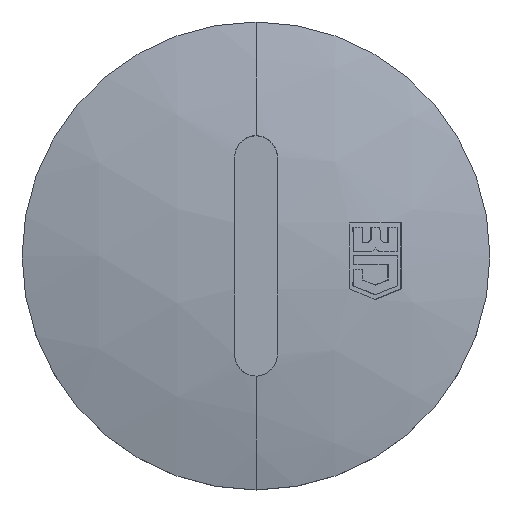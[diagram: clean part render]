
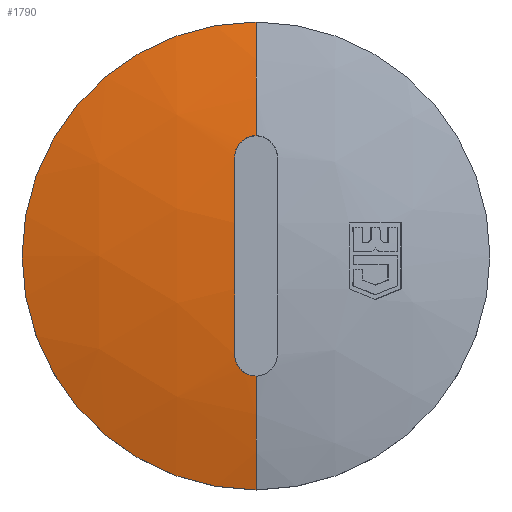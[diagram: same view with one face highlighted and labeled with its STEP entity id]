
A CAD part, top view. The second image highlights one B-rep face of the part: STEP entity #1790.
In plain terms, the highlighted spherical face has radius 41.083 mm.
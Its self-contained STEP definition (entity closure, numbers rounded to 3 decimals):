
#942 = CARTESIAN_POINT ( 'NONE',  ( -1., 0., -31.083 ) ) ;
#943 = AXIS2_PLACEMENT_3D ( 'NONE', #942, #1006, #1005 ) ;
#944 = CIRCLE ( 'NONE', #943, 41.071 ) ;
#965 = CIRCLE ( 'NONE', #989, 41.083 ) ;
#986 = DIRECTION ( 'NONE',  ( 0., 0., 1. ) ) ;
#987 = DIRECTION ( 'NONE',  ( -1., 0., 0. ) ) ;
#988 = CARTESIAN_POINT ( 'NONE',  ( 0., 0., -31.083 ) ) ;
#989 = AXIS2_PLACEMENT_3D ( 'NONE', #988, #987, #986 ) ;
#1004 = CARTESIAN_POINT ( 'NONE',  ( -1., 4.65, 9.724 ) ) ;
#1005 = DIRECTION ( 'NONE',  ( 0., 0., -1. ) ) ;
#1006 = DIRECTION ( 'NONE',  ( -1., 0., 0. ) ) ;
#1025 = CARTESIAN_POINT ( 'NONE',  ( 0., -5.65, 9.61 ) ) ;
#1173 = CARTESIAN_POINT ( 'NONE',  ( 0., 11., 8.5 ) ) ;
#1190 = CARTESIAN_POINT ( 'NONE',  ( 0., -11., 8.5 ) ) ;
#1335 = FACE_OUTER_BOUND ( 'NONE', #1521, .T. ) ;
#1342 = DIRECTION ( 'NONE',  ( 0., 1., 0. ) ) ;
#1343 = DIRECTION ( 'NONE',  ( 1., 0., 0. ) ) ;
#1344 = AXIS2_PLACEMENT_3D ( 'NONE', #1346, #1343, #1342 ) ;
#1345 = SPHERICAL_SURFACE ( 'NONE', #1344, 41.083 ) ;
#1346 = CARTESIAN_POINT ( 'NONE',  ( 0., 0., -31.083 ) ) ;
#1353 = CARTESIAN_POINT ( 'NONE',  ( -0.616, 5.449, 9.633 ) ) ;
#1354 = CARTESIAN_POINT ( 'NONE',  ( -0.8, 5.264, 9.654 ) ) ;
#1355 = CARTESIAN_POINT ( 'NONE',  ( -0.874, 5.153, 9.666 ) ) ;
#1356 = CARTESIAN_POINT ( 'NONE',  ( -0.974, 4.911, 9.694 ) ) ;
#1357 = CARTESIAN_POINT ( 'NONE',  ( -1., 4.782, 9.709 ) ) ;
#1358 = CARTESIAN_POINT ( 'NONE',  ( -1., 4.65, 9.724 ) ) ;
#1359 = AXIS2_PLACEMENT_3D ( 'NONE', #1362, #1389, #1388 ) ;
#1360 = CIRCLE ( 'NONE', #1359, 41.083 ) ;
#1362 = CARTESIAN_POINT ( 'NONE',  ( 0., 0., -31.083 ) ) ;
#1363 = B_SPLINE_CURVE_WITH_KNOTS ( 'NONE', 3,
 ( #1358, #1357, #1356, #1355, #1354, #1353, #1393, #1392, #1391, #1390 ),
 .UNSPECIFIED., .F., .F.,
 ( 4, 2, 2, 2, 4 ),
 ( 0., 0., 0.001, 0.001, 0.002 ),
 .UNSPECIFIED. ) ;
#1365 = CARTESIAN_POINT ( 'NONE',  ( -1., -4.65, 9.724 ) ) ;
#1366 = CARTESIAN_POINT ( 'NONE',  ( -1., -4.913, 9.694 ) ) ;
#1367 = CARTESIAN_POINT ( 'NONE',  ( -0.894, -5.169, 9.665 ) ) ;
#1368 = CARTESIAN_POINT ( 'NONE',  ( -0.615, -5.45, 9.633 ) ) ;
#1369 = CARTESIAN_POINT ( 'NONE',  ( -0.505, -5.523, 9.624 ) ) ;
#1370 = CARTESIAN_POINT ( 'NONE',  ( -0.262, -5.624, 9.613 ) ) ;
#1371 = B_SPLINE_CURVE_WITH_KNOTS ( 'NONE', 3,
 ( #1373, #1372, #1370, #1369, #1368, #1367, #1366, #1365 ),
 .UNSPECIFIED., .F., .F.,
 ( 4, 2, 2, 4 ),
 ( 0.002, 0.002, 0.002, 0.003 ),
 .UNSPECIFIED. ) ;
#1372 = CARTESIAN_POINT ( 'NONE',  ( -0.131, -5.65, 9.61 ) ) ;
#1373 = CARTESIAN_POINT ( 'NONE',  ( 0., -5.65, 9.61 ) ) ;
#1382 = CARTESIAN_POINT ( 'NONE',  ( -1., -4.65, 9.724 ) ) ;
#1388 = DIRECTION ( 'NONE',  ( 0., 1., 0. ) ) ;
#1389 = DIRECTION ( 'NONE',  ( 1., 0., 0. ) ) ;
#1390 = CARTESIAN_POINT ( 'NONE',  ( 0., 5.65, 9.61 ) ) ;
#1391 = CARTESIAN_POINT ( 'NONE',  ( -0.131, 5.65, 9.61 ) ) ;
#1392 = CARTESIAN_POINT ( 'NONE',  ( -0.263, 5.624, 9.613 ) ) ;
#1393 = CARTESIAN_POINT ( 'NONE',  ( -0.504, 5.523, 9.624 ) ) ;
#1397 = AXIS2_PLACEMENT_3D ( 'NONE', #1444, #1443, #1495 ) ;
#1443 = DIRECTION ( 'NONE',  ( 0., 0., -1. ) ) ;
#1444 = CARTESIAN_POINT ( 'NONE',  ( 0., 0., 8.5 ) ) ;
#1445 = CARTESIAN_POINT ( 'NONE',  ( 0., 5.65, 9.61 ) ) ;
#1446 = CIRCLE ( 'NONE', #1397, 11. ) ;
#1495 = DIRECTION ( 'NONE',  ( 0., 1., 0. ) ) ;
#1521 = EDGE_LOOP ( 'NONE', ( #1785, #1786, #1801, #1793, #1808, #1543 ) ) ;
#1529 = EDGE_CURVE ( 'NONE', #1812, #1747, #965, .T. ) ;
#1536 = VERTEX_POINT ( 'NONE', #1025 ) ;
#1543 = ORIENTED_EDGE ( 'NONE', *, *, #1810, .F. ) ;
#1548 = EDGE_CURVE ( 'NONE', #1805, #1549, #944, .T. ) ;
#1549 = VERTEX_POINT ( 'NONE', #1004 ) ;
#1747 = VERTEX_POINT ( 'NONE', #1173 ) ;
#1756 = VERTEX_POINT ( 'NONE', #1190 ) ;
#1785 = ORIENTED_EDGE ( 'NONE', *, *, #1796, .F. ) ;
#1786 = ORIENTED_EDGE ( 'NONE', *, *, #1792, .T. ) ;
#1790 = ADVANCED_FACE ( 'NONE', ( #1335 ), #1345, .T. ) ;
#1792 = EDGE_CURVE ( 'NONE', #1536, #1805, #1371, .T. ) ;
#1793 = ORIENTED_EDGE ( 'NONE', *, *, #1794, .T. ) ;
#1794 = EDGE_CURVE ( 'NONE', #1549, #1812, #1363, .T. ) ;
#1796 = EDGE_CURVE ( 'NONE', #1536, #1756, #1360, .T. ) ;
#1801 = ORIENTED_EDGE ( 'NONE', *, *, #1548, .T. ) ;
#1805 = VERTEX_POINT ( 'NONE', #1382 ) ;
#1808 = ORIENTED_EDGE ( 'NONE', *, *, #1529, .T. ) ;
#1810 = EDGE_CURVE ( 'NONE', #1756, #1747, #1446, .T. ) ;
#1812 = VERTEX_POINT ( 'NONE', #1445 ) ;
